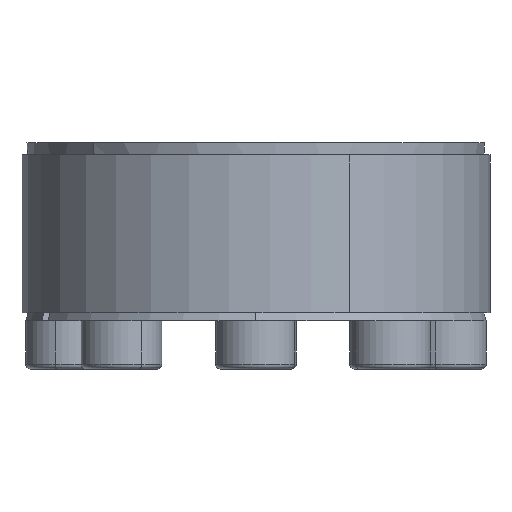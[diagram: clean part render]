
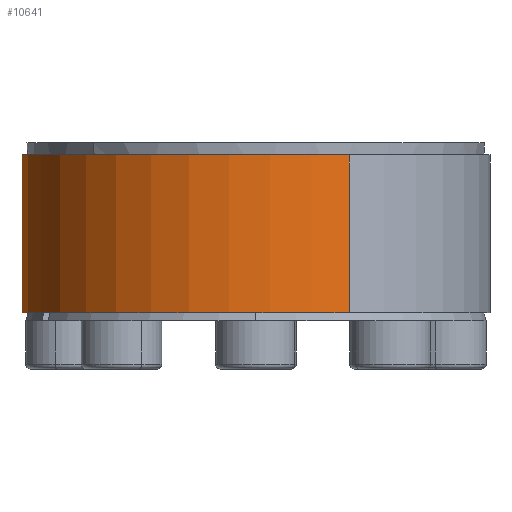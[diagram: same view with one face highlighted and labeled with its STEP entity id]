
A CAD part, left-side view. The second image highlights one B-rep face of the part: STEP entity #10641.
In plain terms, the highlighted cylindrical face has radius 28.985 mm (diameter 57.97 mm), a partial arc.
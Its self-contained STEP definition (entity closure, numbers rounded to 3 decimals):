
#238 = EDGE_CURVE ( 'NONE', #5766, #2455, #11057, .T. ) ;
#430 = DIRECTION ( 'NONE',  ( 0., 0., 1. ) ) ;
#446 = LINE ( 'NONE', #9271, #7856 ) ;
#539 = DIRECTION ( 'NONE',  ( 0., 0., -1. ) ) ;
#643 = DIRECTION ( 'NONE',  ( 0.917, 0.399, 0. ) ) ;
#1347 = ORIENTED_EDGE ( 'NONE', *, *, #11026, .F. ) ;
#1531 = DIRECTION ( 'NONE',  ( 0., 0., -1. ) ) ;
#1532 = CARTESIAN_POINT ( 'NONE',  ( -26.581, -11.558, 20.484 ) ) ;
#2014 = DIRECTION ( 'NONE',  ( 0., 0., 1. ) ) ;
#2067 = FACE_OUTER_BOUND ( 'NONE', #8365, .T. ) ;
#2455 = VERTEX_POINT ( 'NONE', #1532 ) ;
#2557 = EDGE_CURVE ( 'NONE', #3126, #4275, #2827, .T. ) ;
#2625 = ORIENTED_EDGE ( 'NONE', *, *, #238, .F. ) ;
#2827 = CIRCLE ( 'NONE', #11781, 28.985 ) ;
#3126 = VERTEX_POINT ( 'NONE', #10667 ) ;
#3448 = CYLINDRICAL_SURFACE ( 'NONE', #7448, 28.985 ) ;
#3485 = CARTESIAN_POINT ( 'NONE',  ( 0., 0., 20.484 ) ) ;
#4082 = ORIENTED_EDGE ( 'NONE', *, *, #2557, .T. ) ;
#4275 = VERTEX_POINT ( 'NONE', #5424 ) ;
#5152 = ORIENTED_EDGE ( 'NONE', *, *, #8317, .T. ) ;
#5226 = CARTESIAN_POINT ( 'NONE',  ( 26.581, 11.558, 20.484 ) ) ;
#5424 = CARTESIAN_POINT ( 'NONE',  ( -26.581, -11.558, 0.984 ) ) ;
#5766 = VERTEX_POINT ( 'NONE', #11401 ) ;
#6245 = CARTESIAN_POINT ( 'NONE',  ( 0., 0., 20.484 ) ) ;
#7201 = DIRECTION ( 'NONE',  ( -0.917, -0.399, 0. ) ) ;
#7448 = AXIS2_PLACEMENT_3D ( 'NONE', #3485, #1531, #643 ) ;
#7800 = CARTESIAN_POINT ( 'NONE',  ( 0., 0., 0.984 ) ) ;
#7856 = VECTOR ( 'NONE', #539, 1000. ) ;
#8069 = AXIS2_PLACEMENT_3D ( 'NONE', #6245, #430, #7201 ) ;
#8317 = EDGE_CURVE ( 'NONE', #5766, #3126, #11238, .T. ) ;
#8365 = EDGE_LOOP ( 'NONE', ( #1347, #2625, #5152, #4082 ) ) ;
#8634 = VECTOR ( 'NONE', #11072, 1000. ) ;
#8796 = DIRECTION ( 'NONE',  ( -0.917, -0.399, 0. ) ) ;
#9271 = CARTESIAN_POINT ( 'NONE',  ( -26.581, -11.558, 20.484 ) ) ;
#10641 = ADVANCED_FACE ( 'NONE', ( #2067 ), #3448, .T. ) ;
#10667 = CARTESIAN_POINT ( 'NONE',  ( 26.581, 11.558, 0.984 ) ) ;
#11026 = EDGE_CURVE ( 'NONE', #2455, #4275, #446, .T. ) ;
#11057 = CIRCLE ( 'NONE', #8069, 28.985 ) ;
#11072 = DIRECTION ( 'NONE',  ( 0., 0., -1. ) ) ;
#11238 = LINE ( 'NONE', #5226, #8634 ) ;
#11401 = CARTESIAN_POINT ( 'NONE',  ( 26.581, 11.558, 20.484 ) ) ;
#11781 = AXIS2_PLACEMENT_3D ( 'NONE', #7800, #2014, #8796 ) ;
